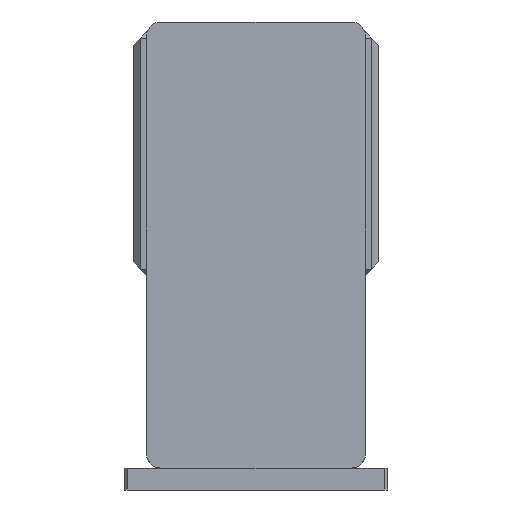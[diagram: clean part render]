
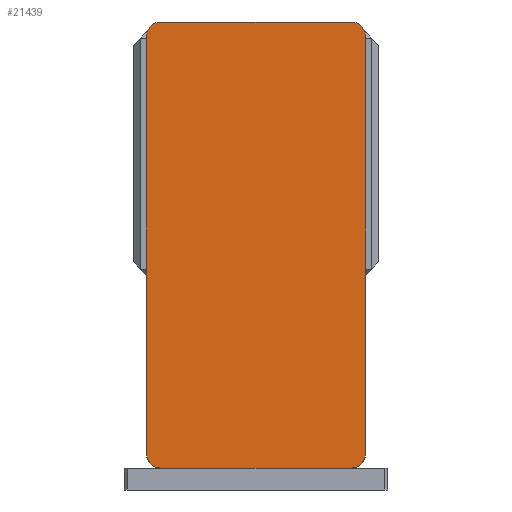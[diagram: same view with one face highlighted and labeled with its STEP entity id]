
A CAD part, left-side view. The second image highlights one B-rep face of the part: STEP entity #21439.
In plain terms, the highlighted planar face has unit normal (-1, 0, 0) as drawn and (0, 0, 1) by its records, which use the part's own axes.
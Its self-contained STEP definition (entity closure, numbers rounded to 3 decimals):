
#204 = DIRECTION ( 'NONE',  ( 0., 0., 1. ) ) ;
#251 = DIRECTION ( 'NONE',  ( 0., 0., 1. ) ) ;
#254 = LINE ( 'NONE', #14950, #9207 ) ;
#888 = EDGE_CURVE ( 'NONE', #21473, #7599, #7842, .T. ) ;
#1714 = CARTESIAN_POINT ( 'NONE',  ( -65., 152.5, 105. ) ) ;
#1750 = DIRECTION ( 'NONE',  ( 1., 0., 0. ) ) ;
#1761 = VERTEX_POINT ( 'NONE', #1714 ) ;
#1933 = PLANE ( 'NONE',  #14876 ) ;
#2072 = DIRECTION ( 'NONE',  ( -1., 0., 0. ) ) ;
#2537 = VECTOR ( 'NONE', #5718, 1000. ) ;
#2600 = CARTESIAN_POINT ( 'NONE',  ( 65., -142.5, 105. ) ) ;
#3067 = VECTOR ( 'NONE', #3495, 1000. ) ;
#3327 = VERTEX_POINT ( 'NONE', #18948 ) ;
#3375 = CIRCLE ( 'NONE', #7376, 10. ) ;
#3495 = DIRECTION ( 'NONE',  ( 0., -1., 0. ) ) ;
#3675 = FACE_OUTER_BOUND ( 'NONE', #19076, .T. ) ;
#3748 = ORIENTED_EDGE ( 'NONE', *, *, #15610, .T. ) ;
#4330 = AXIS2_PLACEMENT_3D ( 'NONE', #10939, #204, #12727 ) ;
#4352 = EDGE_CURVE ( 'NONE', #3327, #21473, #3375, .T. ) ;
#4397 = DIRECTION ( 'NONE',  ( 1., 0., 0. ) ) ;
#4999 = CIRCLE ( 'NONE', #4330, 10. ) ;
#5298 = CARTESIAN_POINT ( 'NONE',  ( -75., 152.5, 105. ) ) ;
#5531 = DIRECTION ( 'NONE',  ( 1., 0., 0. ) ) ;
#5718 = DIRECTION ( 'NONE',  ( 0., 1., 0. ) ) ;
#5734 = VERTEX_POINT ( 'NONE', #9600 ) ;
#6272 = ORIENTED_EDGE ( 'NONE', *, *, #18730, .T. ) ;
#6778 = CARTESIAN_POINT ( 'NONE',  ( -75., 142.5, 105. ) ) ;
#6893 = EDGE_CURVE ( 'NONE', #7713, #12389, #17402, .T. ) ;
#7108 = VECTOR ( 'NONE', #21375, 1000. ) ;
#7376 = AXIS2_PLACEMENT_3D ( 'NONE', #2600, #15164, #4397 ) ;
#7599 = VERTEX_POINT ( 'NONE', #21000 ) ;
#7713 = VERTEX_POINT ( 'NONE', #6778 ) ;
#7842 = LINE ( 'NONE', #11363, #2537 ) ;
#9207 = VECTOR ( 'NONE', #2072, 1000. ) ;
#9600 = CARTESIAN_POINT ( 'NONE',  ( -65., -152.5, 105. ) ) ;
#9796 = AXIS2_PLACEMENT_3D ( 'NONE', #23259, #12483, #1750 ) ;
#9920 = CIRCLE ( 'NONE', #9796, 10. ) ;
#10333 = ORIENTED_EDGE ( 'NONE', *, *, #22219, .T. ) ;
#10939 = CARTESIAN_POINT ( 'NONE',  ( -65., 142.5, 105. ) ) ;
#10987 = CARTESIAN_POINT ( 'NONE',  ( -65., -142.5, 105. ) ) ;
#11363 = CARTESIAN_POINT ( 'NONE',  ( 75., 152.5, 105. ) ) ;
#11751 = CARTESIAN_POINT ( 'NONE',  ( 65., 152.5, 105. ) ) ;
#12389 = VERTEX_POINT ( 'NONE', #17268 ) ;
#12483 = DIRECTION ( 'NONE',  ( 0., 0., 1. ) ) ;
#12633 = ORIENTED_EDGE ( 'NONE', *, *, #6893, .T. ) ;
#12727 = DIRECTION ( 'NONE',  ( 1., 0., 0. ) ) ;
#12783 = DIRECTION ( 'NONE',  ( 1., 0., 0. ) ) ;
#12789 = EDGE_CURVE ( 'NONE', #12389, #5734, #22592, .T. ) ;
#12808 = ORIENTED_EDGE ( 'NONE', *, *, #22174, .T. ) ;
#14876 = AXIS2_PLACEMENT_3D ( 'NONE', #18017, #16291, #5531 ) ;
#14950 = CARTESIAN_POINT ( 'NONE',  ( -75., 152.5, 105. ) ) ;
#15164 = DIRECTION ( 'NONE',  ( 0., 0., 1. ) ) ;
#15389 = ORIENTED_EDGE ( 'NONE', *, *, #4352, .T. ) ;
#15610 = EDGE_CURVE ( 'NONE', #7599, #23092, #9920, .T. ) ;
#15862 = ORIENTED_EDGE ( 'NONE', *, *, #12789, .T. ) ;
#16291 = DIRECTION ( 'NONE',  ( 0., 0., 1. ) ) ;
#16367 = CARTESIAN_POINT ( 'NONE',  ( 75., -142.5, 105. ) ) ;
#17268 = CARTESIAN_POINT ( 'NONE',  ( -75., -142.5, 105. ) ) ;
#17402 = LINE ( 'NONE', #5298, #3067 ) ;
#18017 = CARTESIAN_POINT ( 'NONE',  ( 0., 0., 105. ) ) ;
#18730 = EDGE_CURVE ( 'NONE', #5734, #3327, #21461, .T. ) ;
#18948 = CARTESIAN_POINT ( 'NONE',  ( 65., -152.5, 105. ) ) ;
#19076 = EDGE_LOOP ( 'NONE', ( #6272, #15389, #23019, #3748, #10333, #12808, #12633, #15862 ) ) ;
#19584 = CARTESIAN_POINT ( 'NONE',  ( -75., -152.5, 105. ) ) ;
#21000 = CARTESIAN_POINT ( 'NONE',  ( 75., 142.5, 105. ) ) ;
#21375 = DIRECTION ( 'NONE',  ( 1., 0., 0. ) ) ;
#21439 = ADVANCED_FACE ( 'NONE', ( #3675 ), #1933, .T. ) ;
#21446 = AXIS2_PLACEMENT_3D ( 'NONE', #10987, #251, #12783 ) ;
#21461 = LINE ( 'NONE', #19584, #7108 ) ;
#21473 = VERTEX_POINT ( 'NONE', #16367 ) ;
#22174 = EDGE_CURVE ( 'NONE', #1761, #7713, #4999, .T. ) ;
#22219 = EDGE_CURVE ( 'NONE', #23092, #1761, #254, .T. ) ;
#22592 = CIRCLE ( 'NONE', #21446, 10. ) ;
#23019 = ORIENTED_EDGE ( 'NONE', *, *, #888, .T. ) ;
#23092 = VERTEX_POINT ( 'NONE', #11751 ) ;
#23259 = CARTESIAN_POINT ( 'NONE',  ( 65., 142.5, 105. ) ) ;
